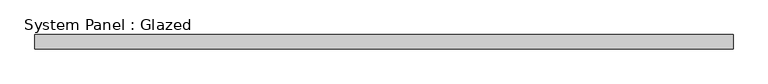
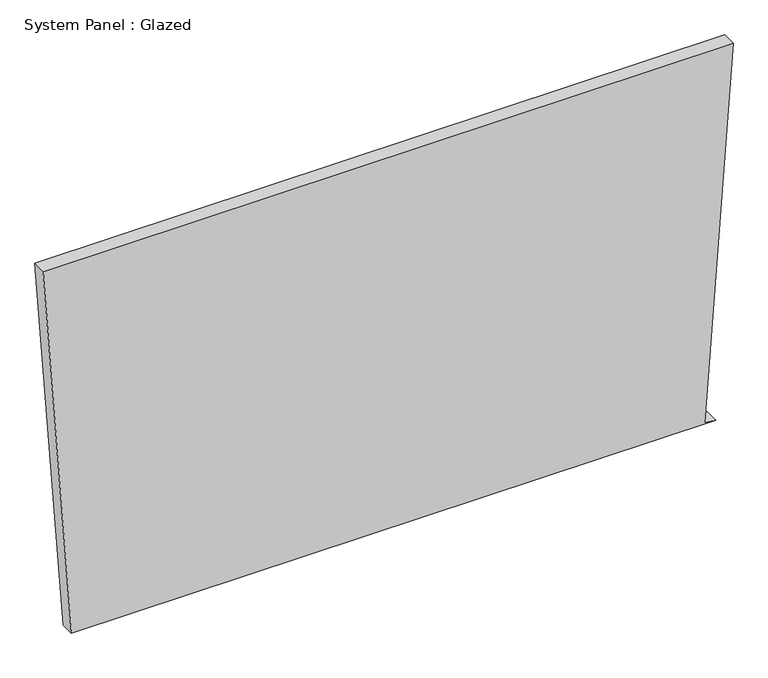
"""IFC4 building model written with IfcOpenShell, lengths in millimetres: plate geometry, System Panel : Glazed."""

from ifc_helpers import new_model, si_unit, frame, origin, place, context, project, spatial, polyline, outline, extrude, source, transform, mapped, element, save


def system_panel_glazed_c75c15cb(model_context):
    return source(origin(), model_context, "Body", "SweptSolid", [
        extrude(outline(polyline([(0.0076164, -568.198187), (0.0, 587.2974446), (1.3667445, 568.2965365), (703.9851623, 618.8362183), (703.9933203, -618.8362183), (0.0076164, -568.198187)])), frame((0.0, 19.05, 0.0), z_axis=(0.0, 1.0, 0.0), x_axis=(0.0, 0.0, 1.0)), (0.0, 0.0, 1.0), 25.4),
    ])


if __name__ == "__main__":
    model = new_model("IFC4")
    model_context = context("Model", 3, world=origin())
    ifc_project = project(units=[si_unit("LENGTHUNIT", "METRE", prefix="MILLI")], contexts=[model_context])
    site = spatial("IfcSite", under=ifc_project)
    building = spatial("IfcBuilding", under=site)
    placement = place(None, origin())
    system_panel_glazed_shape = system_panel_glazed_c75c15cb(model_context)
    element("IfcPlate", 1, ObjectType="System Panel : Glazed", at=placement, inside=building, context=model_context, shape_type="MappedRepresentation", body=[
        mapped(system_panel_glazed_shape, transform((0.0, 0.0, 0.0), x_axis=(1.0, 0.0, 0.0), y_axis=(0.0, 1.0, 0.0), z_axis=(0.0, 0.0, 1.0))),
    ])
    save(model, "model.ifc")
